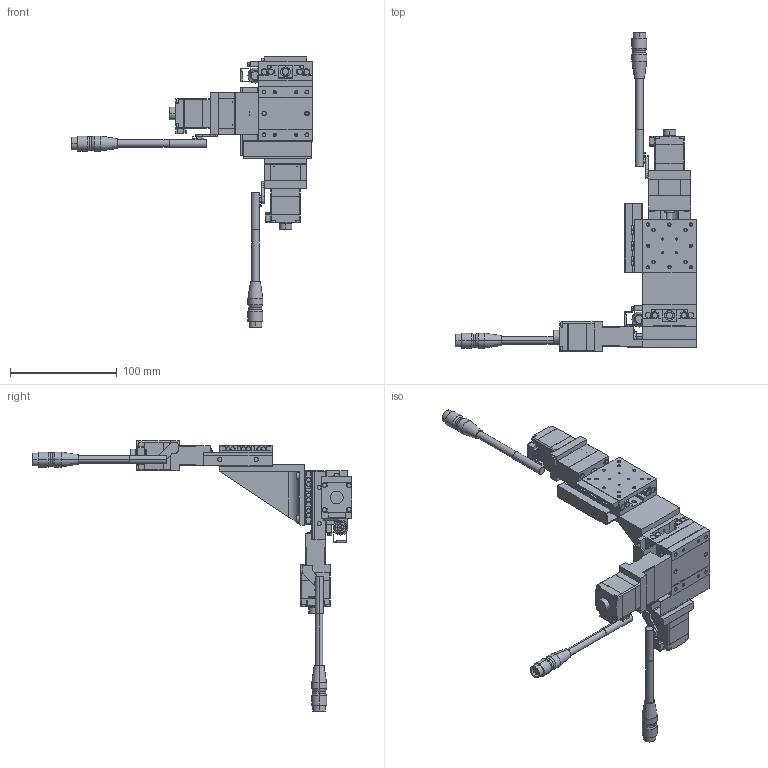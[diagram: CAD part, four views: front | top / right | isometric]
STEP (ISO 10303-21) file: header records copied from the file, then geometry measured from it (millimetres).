
FILE_DESCRIPTION(('STEP AP203'),'1');
FILE_NAME('C:/3D-Trans/3D_PMZG513T-L□-E+240129.step','2024-03-14T06:03:00',(' '),(' '),'Spatial InterOp 3D',' ',' ');
FILE_SCHEMA(('CONFIG_CONTROL_DESIGN'));
Length unit declared in the file: millimetre
Products named in the file (19): 1; 2; 3; 4; 5; 6; 7; 8; 9; 10; 11; 12; 13; 14; 15; 16; 17; 18; 19
Bounding box: 225 x 299 x 253 mm (x, y, z)
Volume: 366399.4 mm3; surface area: 159746.1 mm2
Topology: 19 solids, 19 shells, 2138 faces, 5380 edges, 3405 vertices
Faces by surface type: plane 1163, cylinder 721, cone 254
Entity records: 64606 total; most frequent: DIRECTION 11420, CARTESIAN_POINT 10996, ORIENTED_EDGE 10640, EDGE_CURVE 5320, AXIS2_PLACEMENT_3D 3973, LINE 3474, VECTOR 3474, VERTEX_POINT 3405
